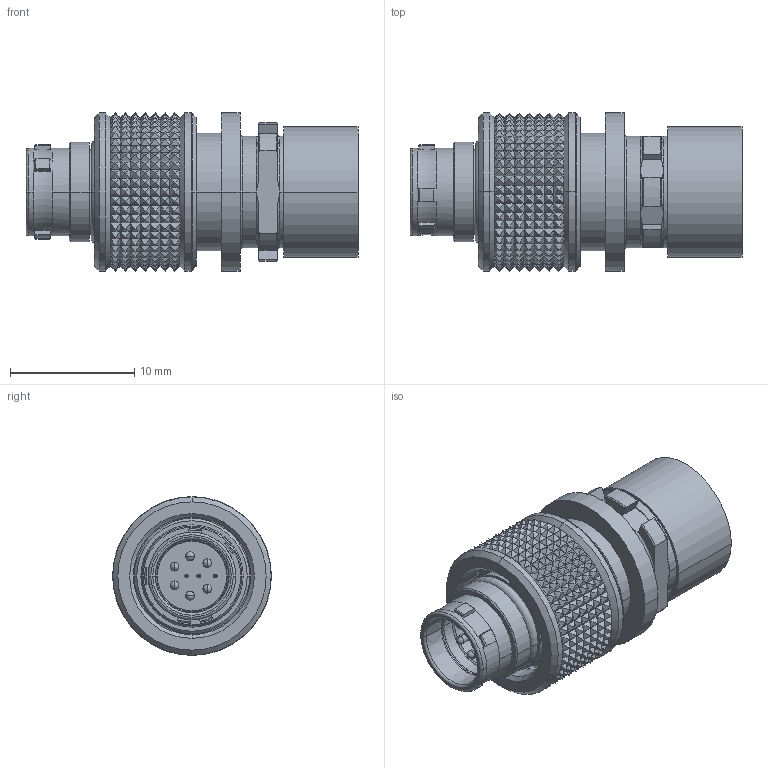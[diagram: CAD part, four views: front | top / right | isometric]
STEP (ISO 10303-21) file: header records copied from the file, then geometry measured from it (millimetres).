
FILE_DESCRIPTION((''),'2;1');
FILE_NAME('PRT0001','2019-09-30T',('DTurza'),(''),'PRO/ENGINEER BY PARAMETRIC TECHNOLOGY CORPORATION, 2016360','PRO/ENGINEER BY PARAMETRIC TECHNOLOGY CORPORATION, 2016360','');
FILE_SCHEMA(('AUTOMOTIVE_DESIGN { 1 0 10303 214 1 1 1 1 }'));
Products named in the file (1): PRT0001
Bounding box: 26.75 x 12.8 x 12.8 mm (x, y, z)
Volume: 1343.4 mm3; surface area: 3070.9 mm2
Topology: 1 solids, 2 shells, 1883 faces, 3756 edges, 1885 vertices
Faces by surface type: plane 824, cone 798, cylinder 166, torus 71, sphere 18, bspline 6
Entity records: 64518 total; most frequent: CARTESIAN_POINT 15319, ORIENTED_EDGE 7440, DIRECTION 7288, EDGE_CURVE 3720, AXIS2_PLACEMENT_3D 3262, EDGE_LOOP 1931, VERTEX_POINT 1885, FILL_AREA_STYLE_COLOUR 1884
